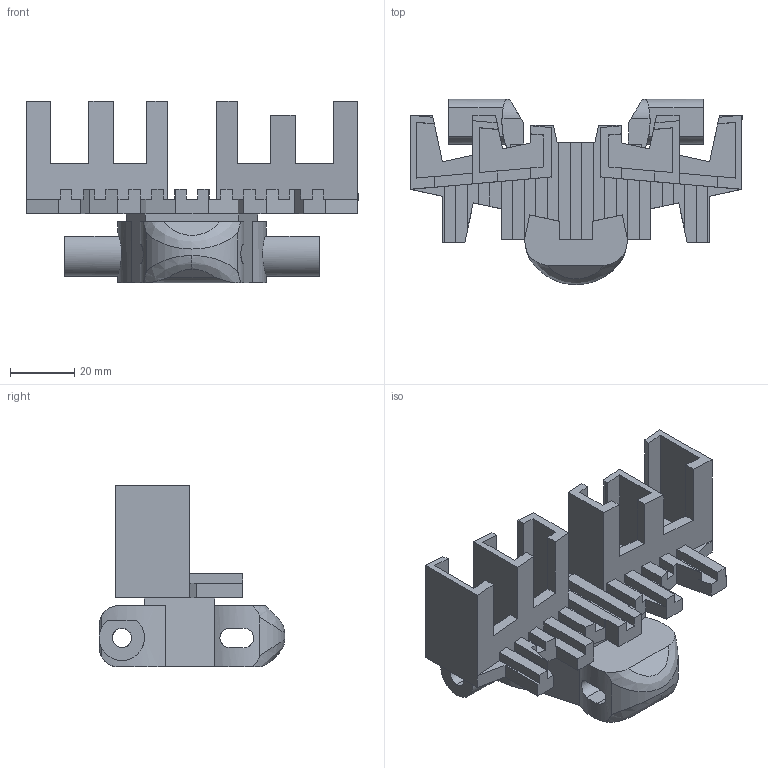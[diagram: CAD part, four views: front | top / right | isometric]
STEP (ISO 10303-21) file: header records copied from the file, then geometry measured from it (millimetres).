
FILE_DESCRIPTION (( 'STEP AP214' ), '1' );
FILE_NAME ('FCRB 5B.step', '2017-04-04T13:29:16', ( '' ), ( '' ), 'SwSTEP 2.0', 'SolidWorks 2015', '' );
FILE_SCHEMA (( 'AUTOMOTIVE_DESIGN' ));
Length unit declared in the file: millimetre
Products named in the file (1): FCRB 5B
Bounding box: 103 x 57.5 x 56.4 mm (x, y, z)
Volume: 53157.9 mm3; surface area: 29181.4 mm2
Topology: 1 solids, 1 shells, 208 faces, 616 edges, 407 vertices
Faces by surface type: plane 175, cylinder 30, bspline 3
Entity records: 8492 total; most frequent: CARTESIAN_POINT 3086, ORIENTED_EDGE 1232, DIRECTION 936, EDGE_CURVE 616, VECTOR 518, LINE 518, VERTEX_POINT 407, EDGE_LOOP 211
